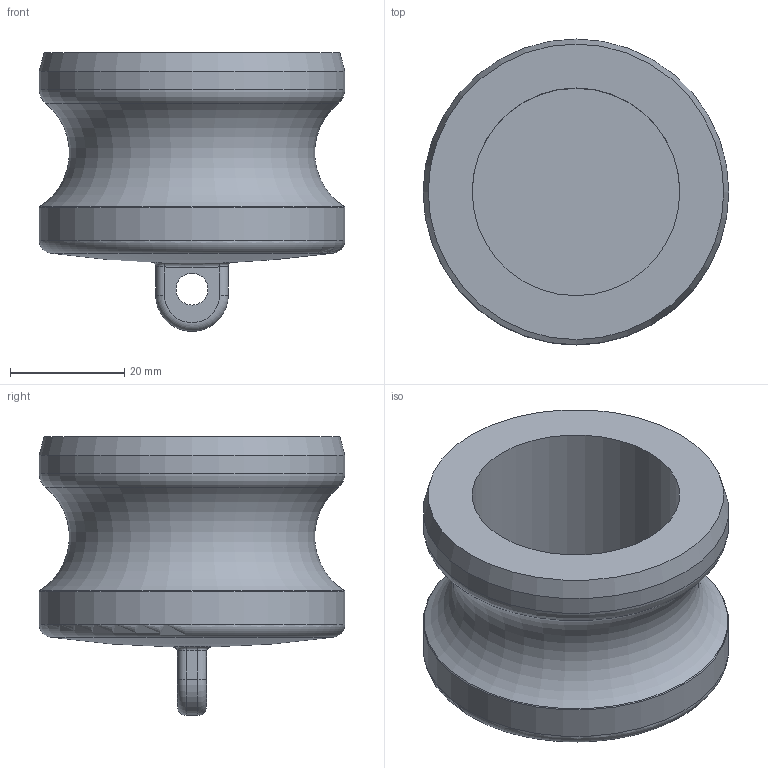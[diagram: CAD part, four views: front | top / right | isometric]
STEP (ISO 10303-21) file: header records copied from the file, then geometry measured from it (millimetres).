
FILE_DESCRIPTION(/* description */ ('Alibre Inc.'),/* implementation_level */ '2;1');
FILE_NAME(/* name */ 'export0',/* time_stamp */ '2016-01-24T11:13:26-05:00',/* author */ (''),/* organization */ (''),/* preprocessor_version */ 'ST-DEVELOPER v14',/* originating_system */ 'Alibre',/* authorisation */ '');
FILE_SCHEMA (('CONFIG_CONTROL_DESIGN'));
Length unit declared in the file: centimetre
Products named in the file (1): ID_1
Bounding box: 53.47 x 53.47 x 48.77 mm (x, y, z)
Volume: 34936.2 mm3; surface area: 14346.1 mm2
Topology: 1 solids, 1 shells, 31 faces, 66 edges, 38 vertices
Faces by surface type: torus 9, cylinder 9, plane 6, bspline 4, cone 2, sphere 1
Full cylindrical faces by diameter (mm): 5.588 x1, 36.322 x1, 53.467 x2
Entity records: 1198 total; most frequent: CARTESIAN_POINT 509, DIRECTION 121, ORIENTED_EDGE 108, AXIS2_PLACEMENT_3D 63, EDGE_CURVE 54, EDGE_LOOP 44, FACE_BOUND 44, VERTEX_POINT 36
